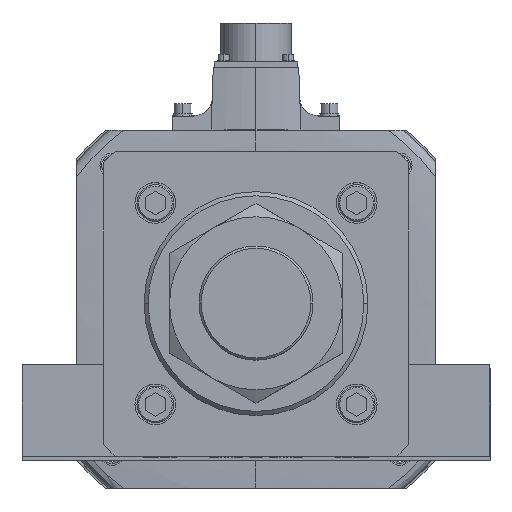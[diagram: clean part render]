
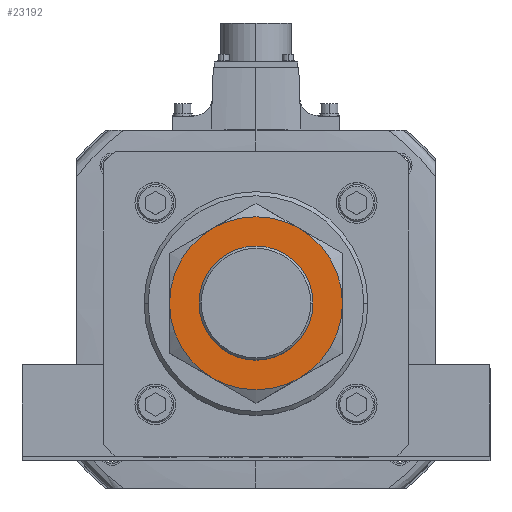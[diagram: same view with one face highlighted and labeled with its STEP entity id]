
A CAD part, top view. The second image highlights one B-rep face of the part: STEP entity #23192.
In plain terms, the highlighted planar face has unit normal (0, 0, 1).
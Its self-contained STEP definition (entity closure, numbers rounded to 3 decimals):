
#810 = CARTESIAN_POINT ( 'NONE',  ( 0., 0., 34. ) ) ;
#1599 = ORIENTED_EDGE ( 'NONE', *, *, #20599, .F. ) ;
#2129 = VERTEX_POINT ( 'NONE', #29251 ) ;
#2269 = VERTEX_POINT ( 'NONE', #26574 ) ;
#4611 = DIRECTION ( 'NONE',  ( 0., 0., -1. ) ) ;
#5140 = DIRECTION ( 'NONE',  ( 1., 0., 0. ) ) ;
#6232 = CARTESIAN_POINT ( 'NONE',  ( 21.25, -36.806, 34. ) ) ;
#6297 = EDGE_CURVE ( 'NONE', #36685, #2269, #49687, .T. ) ;
#7512 = VERTEX_POINT ( 'NONE', #49333 ) ;
#8918 = DIRECTION ( 'NONE',  ( 0., 0., -1. ) ) ;
#9898 = DIRECTION ( 'NONE',  ( 1., 0., 0. ) ) ;
#9987 = VERTEX_POINT ( 'NONE', #14250 ) ;
#10246 = EDGE_CURVE ( 'NONE', #9987, #7512, #21270, .T. ) ;
#10326 = CIRCLE ( 'NONE', #21354, 42.5 ) ;
#10775 = EDGE_CURVE ( 'NONE', #2129, #11493, #34035, .T. ) ;
#10873 = DIRECTION ( 'NONE',  ( 0., 0., 1. ) ) ;
#11136 = ORIENTED_EDGE ( 'NONE', *, *, #6297, .F. ) ;
#11493 = VERTEX_POINT ( 'NONE', #15659 ) ;
#12233 = ORIENTED_EDGE ( 'NONE', *, *, #17083, .F. ) ;
#12281 = DIRECTION ( 'NONE',  ( 1., 0., 0. ) ) ;
#12523 = CARTESIAN_POINT ( 'NONE',  ( 0., 0., 34. ) ) ;
#13424 = CARTESIAN_POINT ( 'NONE',  ( 0., 0., 34. ) ) ;
#13502 = EDGE_LOOP ( 'NONE', ( #1599, #14901, #48495, #45976, #12233, #49129 ) ) ;
#13952 = EDGE_CURVE ( 'NONE', #7512, #2129, #41140, .T. ) ;
#14250 = CARTESIAN_POINT ( 'NONE',  ( -42.5, 0., 34. ) ) ;
#14901 = ORIENTED_EDGE ( 'NONE', *, *, #10775, .F. ) ;
#15387 = AXIS2_PLACEMENT_3D ( 'NONE', #810, #38909, #52052 ) ;
#15659 = CARTESIAN_POINT ( 'NONE',  ( 42.5, 0., 34. ) ) ;
#15956 = AXIS2_PLACEMENT_3D ( 'NONE', #53656, #10873, #36022 ) ;
#16479 = DIRECTION ( 'NONE',  ( -1., 0., 0. ) ) ;
#17083 = EDGE_CURVE ( 'NONE', #35517, #9987, #10326, .T. ) ;
#18797 = DIRECTION ( 'NONE',  ( 1., 0., 0. ) ) ;
#18976 = AXIS2_PLACEMENT_3D ( 'NONE', #52511, #35620, #9898 ) ;
#19464 = AXIS2_PLACEMENT_3D ( 'NONE', #42823, #21413, #12281 ) ;
#20599 = EDGE_CURVE ( 'NONE', #11493, #46967, #25511, .T. ) ;
#21037 = PLANE ( 'NONE',  #19464 ) ;
#21270 = CIRCLE ( 'NONE', #28685, 42.5 ) ;
#21354 = AXIS2_PLACEMENT_3D ( 'NONE', #12523, #4611, #5140 ) ;
#21413 = DIRECTION ( 'NONE',  ( 0., 0., 1. ) ) ;
#23192 = ADVANCED_FACE ( 'NONE', ( #46110, #28641 ), #21037, .T. ) ;
#25511 = CIRCLE ( 'NONE', #30218, 42.5 ) ;
#26574 = CARTESIAN_POINT ( 'NONE',  ( 28., 0., 34. ) ) ;
#26675 = DIRECTION ( 'NONE',  ( 1., 0., 0. ) ) ;
#27983 = CARTESIAN_POINT ( 'NONE',  ( 0., 0., 34. ) ) ;
#28436 = AXIS2_PLACEMENT_3D ( 'NONE', #40032, #8918, #38919 ) ;
#28641 = FACE_BOUND ( 'NONE', #29947, .T. ) ;
#28685 = AXIS2_PLACEMENT_3D ( 'NONE', #50433, #50816, #16479 ) ;
#29251 = CARTESIAN_POINT ( 'NONE',  ( 21.25, 36.806, 34. ) ) ;
#29335 = CARTESIAN_POINT ( 'NONE',  ( -28., 0., 34. ) ) ;
#29947 = EDGE_LOOP ( 'NONE', ( #11136, #50706 ) ) ;
#30218 = AXIS2_PLACEMENT_3D ( 'NONE', #27983, #40362, #18797 ) ;
#34035 = CIRCLE ( 'NONE', #15387, 42.5 ) ;
#34967 = CARTESIAN_POINT ( 'NONE',  ( -21.25, -36.806, 34. ) ) ;
#35517 = VERTEX_POINT ( 'NONE', #34967 ) ;
#35620 = DIRECTION ( 'NONE',  ( 0., 0., -1. ) ) ;
#36022 = DIRECTION ( 'NONE',  ( 1., 0., 0. ) ) ;
#36685 = VERTEX_POINT ( 'NONE', #29335 ) ;
#38909 = DIRECTION ( 'NONE',  ( 0., 0., -1. ) ) ;
#38919 = DIRECTION ( 'NONE',  ( 1., 0., 0. ) ) ;
#39274 = DIRECTION ( 'NONE',  ( 0., 0., 1. ) ) ;
#40032 = CARTESIAN_POINT ( 'NONE',  ( 0., 0., 34. ) ) ;
#40362 = DIRECTION ( 'NONE',  ( 0., 0., -1. ) ) ;
#40643 = EDGE_CURVE ( 'NONE', #2269, #36685, #45598, .T. ) ;
#41140 = CIRCLE ( 'NONE', #28436, 42.5 ) ;
#42823 = CARTESIAN_POINT ( 'NONE',  ( 0., 0., 34. ) ) ;
#43474 = CIRCLE ( 'NONE', #18976, 42.5 ) ;
#45598 = CIRCLE ( 'NONE', #52482, 28. ) ;
#45976 = ORIENTED_EDGE ( 'NONE', *, *, #10246, .F. ) ;
#46110 = FACE_OUTER_BOUND ( 'NONE', #13502, .T. ) ;
#46967 = VERTEX_POINT ( 'NONE', #6232 ) ;
#48495 = ORIENTED_EDGE ( 'NONE', *, *, #13952, .F. ) ;
#49129 = ORIENTED_EDGE ( 'NONE', *, *, #49217, .F. ) ;
#49217 = EDGE_CURVE ( 'NONE', #46967, #35517, #43474, .T. ) ;
#49333 = CARTESIAN_POINT ( 'NONE',  ( -21.25, 36.806, 34. ) ) ;
#49687 = CIRCLE ( 'NONE', #15956, 28. ) ;
#50433 = CARTESIAN_POINT ( 'NONE',  ( 0., 0., 34. ) ) ;
#50706 = ORIENTED_EDGE ( 'NONE', *, *, #40643, .F. ) ;
#50816 = DIRECTION ( 'NONE',  ( 0., 0., -1. ) ) ;
#52052 = DIRECTION ( 'NONE',  ( 1., 0., 0. ) ) ;
#52482 = AXIS2_PLACEMENT_3D ( 'NONE', #13424, #39274, #26675 ) ;
#52511 = CARTESIAN_POINT ( 'NONE',  ( 0., 0., 34. ) ) ;
#53656 = CARTESIAN_POINT ( 'NONE',  ( 0., 0., 34. ) ) ;
